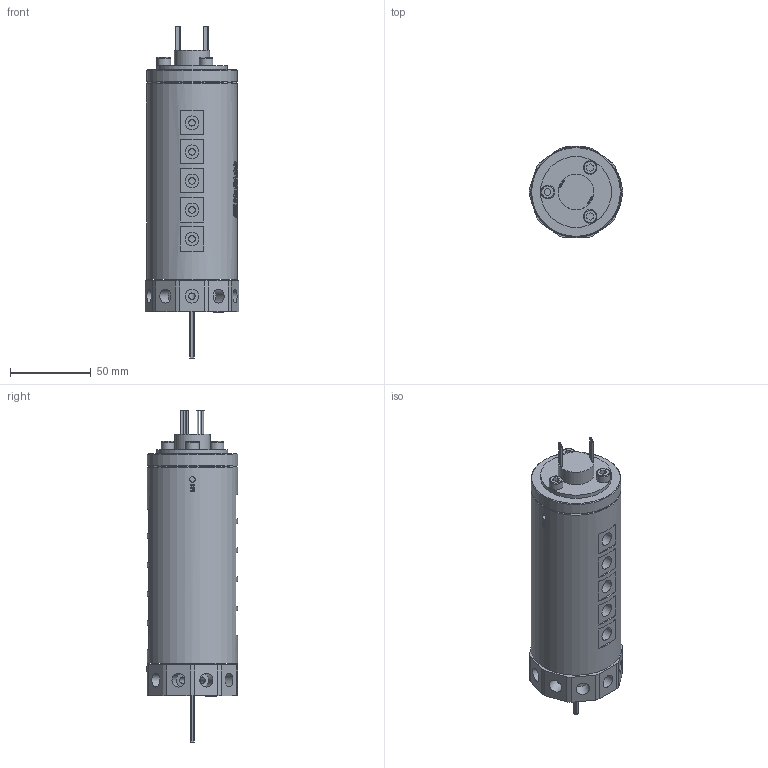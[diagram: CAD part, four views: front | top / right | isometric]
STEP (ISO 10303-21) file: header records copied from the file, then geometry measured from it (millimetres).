
FILE_DESCRIPTION(/* description */ (''),/* implementation_level */ '2;1');
FILE_NAME(/* name */ 'HQ1001-06M.stp',/* time_stamp */ '2025-02-14T12:00:22+08:00',/* author */ (''),/* organization */ (''),/* preprocessor_version */ 'ST-DEVELOPER v16.7',/* originating_system */ 'SIEMENS PLM Software NX 12.0',/* authorisation */ '');
FILE_SCHEMA (('AUTOMOTIVE_DESIGN { 1 0 10303 214 3 1 1 1 }'));
Length unit declared in the file: millimetre
Products named in the file (1): HX0540E8A2D8ngk1
Bounding box: 57.99 x 56.5 x 205.8 mm (x, y, z)
Volume: 355721.6 mm3; surface area: 53950.8 mm2
Topology: 1 solids, 1 shells, 1198 faces, 3133 edges, 2114 vertices
Faces by surface type: plane 535, extrusion 485, cylinder 138, bspline 30, cone 7, torus 3
Full cylindrical faces by diameter (mm): 0.8 x16, 3.4 x6, 4 x30, 4.1 x10, 4.2 x10, 7.8 x1, 8 x1, 8.5 x23, 22 x1, 34 x1, 44 x1, 56 x2
Entity records: 42716 total; most frequent: CARTESIAN_POINT 17504, ORIENTED_EDGE 5860, DIRECTION 3324, EDGE_CURVE 2930, B_SPLINE_CURVE_WITH_KNOTS 2351, VERTEX_POINT 2037, EDGE_LOOP 1491, ADVANCED_FACE 1195
